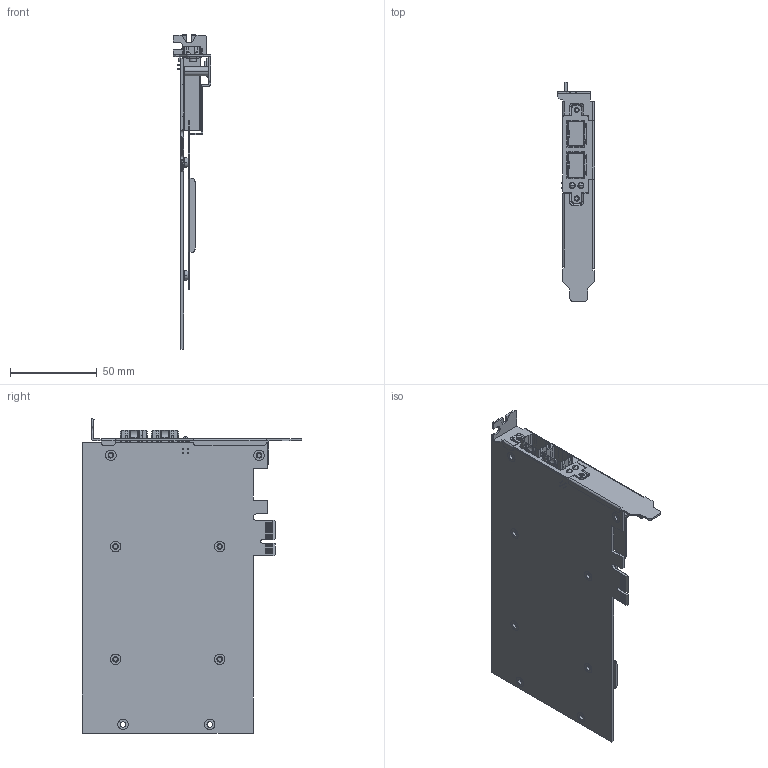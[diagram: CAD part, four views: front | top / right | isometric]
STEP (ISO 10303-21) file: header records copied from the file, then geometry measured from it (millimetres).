
FILE_DESCRIPTION((''),'2;1');
FILE_NAME('3D_DE-FX02-SFP','2015-03-27T',('Justin_Huang'),(''),'PRO/ENGINEER BY PARAMETRIC TECHNOLOGY CORPORATION, 2013230','PRO/ENGINEER BY PARAMETRIC TECHNOLOGY CORPORATION, 2013230','');
FILE_SCHEMA(('AUTOMOTIVE_DESIGN { 1 0 10303 214 1 1 1 1 }'));
Length unit declared in the file: metre
Products named in the file (1): 3D_DE-FX02-SFP
Bounding box: 21.59 x 126.31 x 181.11 mm (x, y, z)
Volume: 43236.4 mm3; surface area: 71820.1 mm2
Topology: 1 solids, 1 shells, 871 faces, 2350 edges, 1492 vertices
Faces by surface type: plane 621, cylinder 212, torus 16, cone 14, bspline 8
Entity records: 32913 total; most frequent: CARTESIAN_POINT 4964, ORIENTED_EDGE 4700, DIRECTION 4574, EDGE_CURVE 2350, VECTOR 1812, LINE 1812, VERTEX_POINT 1492, AXIS2_PLACEMENT_3D 1381
